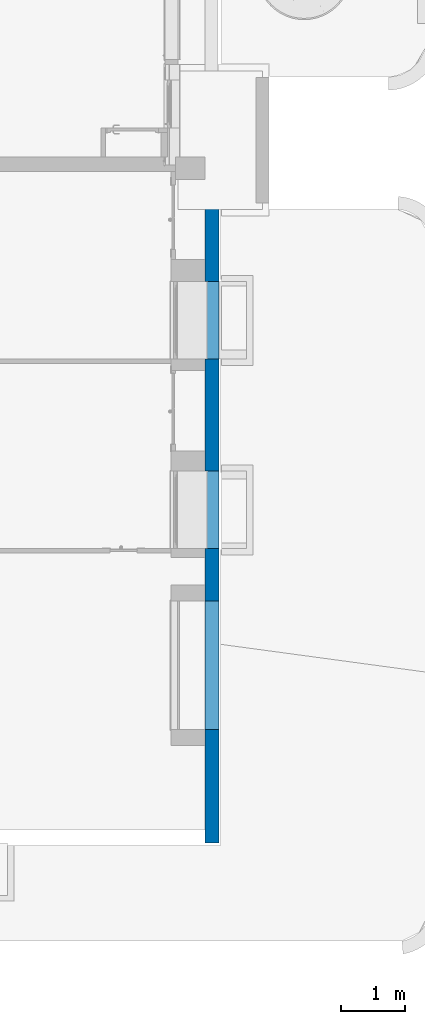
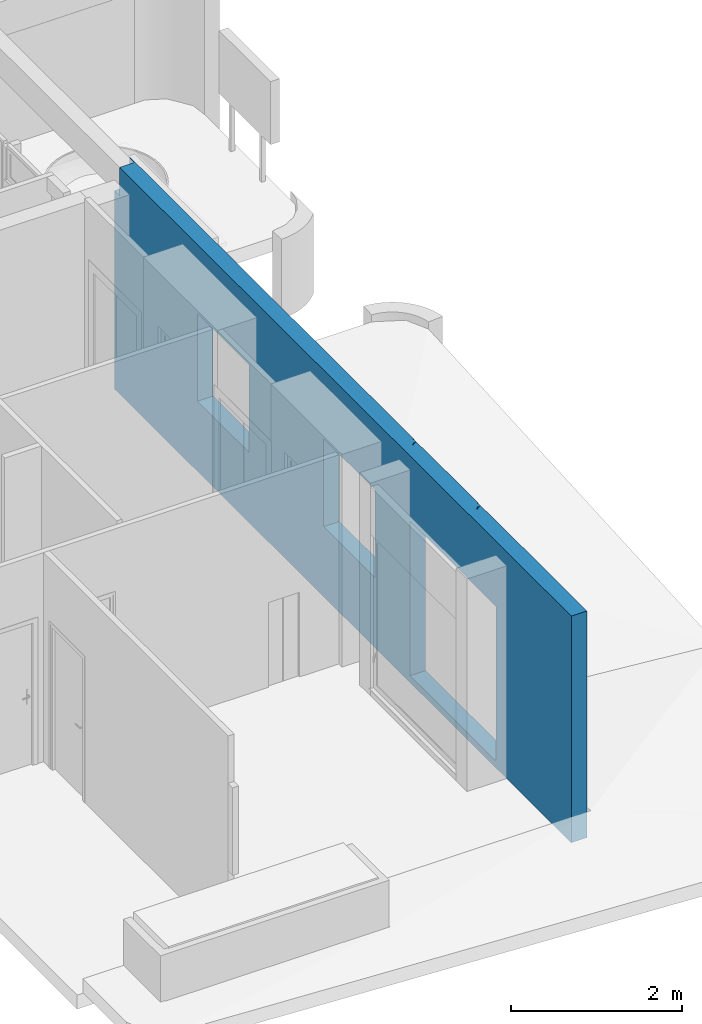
# One storey, part 3 of 10: 1 wall.
"""IFC2X3 building model written with IfcOpenShell, lengths in metres."""

from ifc_helpers import new_model, entity, si_unit, converted_unit, derived_unit, direction, frame, origin, place, context, subcontext, project, spatial, faceted_brep, material, layer, layer_set, type_object, element, save


model = new_model("IFC2X3")

# Units and contexts
model_context = context("Model", 3, precision=1e-05, world=origin(), true_north=direction((6.12303176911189e-17, 1.0)))
body_context = subcontext(model_context, "Body", "Model", "MODEL_VIEW")
ifc_project = project(units=[si_unit("LENGTHUNIT", "METRE"), si_unit("AREAUNIT", "SQUARE_METRE"), si_unit("VOLUMEUNIT", "CUBIC_METRE"), converted_unit("PLANEANGLEUNIT", "DEGREE", entity("IfcRatioMeasure", 0.0174532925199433), si_unit("PLANEANGLEUNIT", "RADIAN"), dimensions=[0, 0, 0, 0, 0, 0, 0]), si_unit("MASSUNIT", "GRAM", prefix="KILO"), derived_unit("MASSDENSITYUNIT", [(si_unit("MASSUNIT", "GRAM", prefix="KILO"), 1), (si_unit("LENGTHUNIT", "METRE"), -3)]), derived_unit("MOMENTOFINERTIAUNIT", [(si_unit("LENGTHUNIT", "METRE"), 4)]), si_unit("TIMEUNIT", "SECOND"), si_unit("FREQUENCYUNIT", "HERTZ"), si_unit("THERMODYNAMICTEMPERATUREUNIT", "DEGREE_CELSIUS"), derived_unit("THERMALTRANSMITTANCEUNIT", [(si_unit("MASSUNIT", "GRAM", prefix="KILO"), 1), (si_unit("THERMODYNAMICTEMPERATUREUNIT", "KELVIN"), -1), (si_unit("TIMEUNIT", "SECOND"), -3)]), derived_unit("VOLUMETRICFLOWRATEUNIT", [(si_unit("LENGTHUNIT", "METRE"), 3), (si_unit("TIMEUNIT", "SECOND"), -1)]), si_unit("ELECTRICCURRENTUNIT", "AMPERE"), si_unit("ELECTRICVOLTAGEUNIT", "VOLT"), si_unit("POWERUNIT", "WATT"), si_unit("FORCEUNIT", "NEWTON", prefix="KILO"), si_unit("ILLUMINANCEUNIT", "LUX"), si_unit("LUMINOUSFLUXUNIT", "LUMEN"), si_unit("LUMINOUSINTENSITYUNIT", "CANDELA"), derived_unit("USERDEFINED", [(si_unit("MASSUNIT", "GRAM", prefix="KILO"), -1), (si_unit("LENGTHUNIT", "METRE"), -2), (si_unit("TIMEUNIT", "SECOND"), 3), (si_unit("LUMINOUSFLUXUNIT", "LUMEN"), 1)]), derived_unit("LINEARVELOCITYUNIT", [(si_unit("LENGTHUNIT", "METRE"), 1), (si_unit("TIMEUNIT", "SECOND"), -1)]), si_unit("PRESSUREUNIT", "PASCAL"), derived_unit("USERDEFINED", [(si_unit("LENGTHUNIT", "METRE"), -2), (si_unit("MASSUNIT", "GRAM", prefix="KILO"), 1), (si_unit("TIMEUNIT", "SECOND"), -2)]), derived_unit("LINEARFORCEUNIT", [(si_unit("MASSUNIT", "GRAM", prefix="KILO"), 1), (si_unit("LENGTHUNIT", "METRE"), 1), (si_unit("TIMEUNIT", "SECOND"), -2), (si_unit("LENGTHUNIT", "METRE"), -1)]), derived_unit("PLANARFORCEUNIT", [(si_unit("MASSUNIT", "GRAM", prefix="KILO"), 1), (si_unit("LENGTHUNIT", "METRE"), 1), (si_unit("TIMEUNIT", "SECOND"), -2), (si_unit("LENGTHUNIT", "METRE"), -2)])], contexts=[model_context])

# Site, building, storey
site_placement = place(None, origin())
site = spatial("IfcSite", under=ifc_project, at=site_placement, Name="Default", CompositionType="ELEMENT")
building_placement = place(site_placement, origin())
building = spatial("IfcBuilding", under=site, at=building_placement, CompositionType="ELEMENT")
storey_placement = place(building_placement, frame((0.0, 0.0, 0.893308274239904)))
storey = spatial("IfcBuildingStorey", under=building, at=storey_placement, Name="Niveau 00 - 02", CompositionType="ELEMENT", Elevation=0.893308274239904)

# Wall
ifc_material = material(Name="Maçonnerie - Voile BA")
ifc_layer = layer(ifc_material, 0.21)
ifc_layer_set = layer_set([ifc_layer], Name="Mur de base:Ext. Voile BA 210")
wall_type = type_object("IfcWallType", Name="Mur de base:Ext. Voile BA 210", PredefinedType="STANDARD", material=ifc_layer_set)
wall_placement = place(storey_placement, frame((2.9524682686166, -21.006253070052, 0.0), z_axis=(0.0, 0.0, 1.0), x_axis=(0.0, 1.0, 0.0)))
element("IfcWall", 1, at=wall_placement, inside=storey, type_object=wall_type, material=ifc_material, Name="Mur de base:Ext. Voile BA 210", ObjectType="Mur de base:Ext. Voile BA 210", context=body_context, shape_type="Brep", body=[
    faceted_brep([(0.0, -0.105, 2.77977559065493), (0.0, -0.105, 0.0), (1.76077841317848, -0.105, 2.3), (0.0, -0.105, 3.22856448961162), (1.76077841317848, -0.105, 0.1), (3.76077841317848, -0.105, 0.1), (10.6596195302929, -0.105, 0.0), (7.52333718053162, -0.105, 1.0), (8.72333718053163, -0.105, 1.0), (10.6596195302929, -0.105, 2.77977559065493), (8.72333718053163, -0.105, 2.25), (10.6596195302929, -0.105, 3.22856448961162), (7.52333718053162, -0.105, 2.25), (4.03988013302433, -0.105, 3.22856448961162), (5.77740566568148, -0.105, 2.25), (5.77720179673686, -0.105, 2.25), (4.03988013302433, -0.105, 3.21999999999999), (4.57740566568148, -0.105, 2.25), (3.76077841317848, -0.105, 2.3), (3.83988013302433, -0.105, 3.21999999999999), (2.53988013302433, -0.105, 3.21999999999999), (3.83988013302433, -0.105, 3.22856448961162), (2.53988013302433, -0.105, 3.22856448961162), (2.33988013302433, -0.105, 3.21999999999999), (2.33988013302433, -0.105, 3.22856448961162), (4.57740566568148, -0.105, 1.0), (5.77720179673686, -0.105, 1.0), (5.77740566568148, -0.105, 1.0), (10.3096195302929, 0.105, 0.0), (10.5396195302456, 0.105, 2.825), (10.6596195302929, 0.105, 0.0), (8.72333718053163, 0.105, 1.0), (9.06961952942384, 0.105, 0.0), (7.34103106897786, 0.105, 0.0), (7.52333718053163, 0.105, 1.0), (6.09103106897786, 0.105, 0.0), (5.77740566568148, 0.105, 1.0), (4.43308796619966, 0.105, 0.0), (4.57740566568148, 0.105, 1.0), (4.01077841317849, 0.105, 0.0), (3.76077841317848, 0.105, 0.1), (3.76077841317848, 0.105, 0.0), (1.76077841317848, 0.105, 0.1), (1.76077841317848, 0.105, 0.0), (1.51077841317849, 0.105, 0.0), (1.76077841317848, 0.105, 2.3), (0.0, 0.105, 0.0), (0.200000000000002, 0.105, 3.22856448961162), (0.0, 0.105, 3.22856448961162), (3.76077841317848, 0.105, 2.3), (4.57740566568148, 0.105, 2.25), (5.77740566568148, 0.105, 2.25), (10.5396195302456, 0.105, 3.22856448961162), (8.72333718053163, 0.105, 2.25), (7.52333718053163, 0.105, 2.25), (10.6596195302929, 0.105, 2.825), (3.88488013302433, -0.0950000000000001, 3.21999999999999), (3.83988013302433, -0.0950000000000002, 3.21999999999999), (4.03988013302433, -0.095000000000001, 3.21999999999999), (3.99488013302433, -0.0950000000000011, 3.21999999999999), (3.98840965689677, -0.0941481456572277, 3.21999999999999), (3.98238013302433, -0.091650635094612, 3.21999999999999), (3.97720246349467, -0.0876776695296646, 3.21999999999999), (3.97322949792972, -0.0825000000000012, 3.21999999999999), (3.9707319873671, -0.076470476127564, 3.21999999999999), (3.96988013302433, -0.0700000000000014, 3.21999999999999), (3.96988013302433, -0.0497963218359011, 3.21999999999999), (3.95238013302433, -0.0497963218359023, 3.21999999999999), (3.95043899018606, -0.0495407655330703, 3.21999999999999), (3.94863013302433, -0.0487915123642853, 3.21999999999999), (3.94707683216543, -0.047599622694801, 3.21999999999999), (3.94588494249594, -0.046046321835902, 3.21999999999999), (3.94513568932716, -0.0442374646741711, 3.21999999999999), (3.94488013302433, -0.0422963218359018, 3.21999999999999), (3.94488013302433, -0.0316456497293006, 3.21999999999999), (3.93488013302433, -0.0316456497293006, 3.21999999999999), (3.93488013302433, -0.0422963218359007, 3.21999999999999), (3.9346245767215, -0.0442374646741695, 3.21999999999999), (3.93387532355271, -0.046046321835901, 3.21999999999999), (3.93268343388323, -0.0475996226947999, 3.21999999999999), (3.93113013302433, -0.0487915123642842, 3.21999999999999), (3.9293212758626, -0.0495407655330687, 3.21999999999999), (3.92738013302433, -0.0497963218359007, 3.21999999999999), (3.90988013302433, -0.0497963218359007, 3.21999999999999), (3.90988013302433, -0.0699999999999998, 3.21999999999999), (3.90902827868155, -0.076470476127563, 3.21999999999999), (3.90653076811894, -0.0825000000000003, 3.21999999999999), (3.90255780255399, -0.0876776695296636, 3.21999999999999), (3.89738013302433, -0.091650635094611, 3.21999999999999), (3.89135060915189, -0.0941481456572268, 3.21999999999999), (2.38488013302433, -0.0949999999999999, 3.21999999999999), (2.33988013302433, -0.0949999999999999, 3.21999999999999), (2.53988013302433, -0.0950000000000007, 3.21999999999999), (2.49488013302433, -0.0950000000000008, 3.21999999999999), (2.48840965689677, -0.0941481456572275, 3.21999999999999), (2.48238013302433, -0.0916506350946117, 3.21999999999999), (2.47720246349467, -0.0876776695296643, 3.21999999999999), (2.47322949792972, -0.0825000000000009, 3.21999999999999), (2.4707319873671, -0.0764704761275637, 3.21999999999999), (2.46988013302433, -0.0700000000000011, 3.21999999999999), (2.46988013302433, -0.0497963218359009, 3.21999999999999), (2.45238013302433, -0.049796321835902, 3.21999999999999), (2.45043899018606, -0.04954076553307, 3.21999999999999), (2.44863013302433, -0.048791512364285, 3.21999999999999), (2.44707683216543, -0.0475996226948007, 3.21999999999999), (2.44588494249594, -0.0460463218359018, 3.21999999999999), (2.44513568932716, -0.0442374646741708, 3.21999999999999), (2.44488013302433, -0.0422963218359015, 3.21999999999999), (2.44488013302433, -0.0316456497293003, 3.21999999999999), (2.43488013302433, -0.0316456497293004, 3.21999999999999), (2.43488013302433, -0.0422963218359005, 3.21999999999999), (2.4346245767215, -0.0442374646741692, 3.21999999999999), (2.43387532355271, -0.0460463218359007, 3.21999999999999), (2.43268343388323, -0.0475996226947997, 3.21999999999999), (2.43113013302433, -0.0487915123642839, 3.21999999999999), (2.4293212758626, -0.0495407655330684, 3.21999999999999), (2.42738013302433, -0.0497963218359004, 3.21999999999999), (2.40988013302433, -0.0497963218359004, 3.21999999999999), (2.40988013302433, -0.0699999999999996, 3.21999999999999), (2.40902827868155, -0.0764704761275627, 3.21999999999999), (2.40653076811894, -0.0825, 3.21999999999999), (2.40255780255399, -0.0876776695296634, 3.21999999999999), (2.39738013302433, -0.0916506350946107, 3.21999999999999), (2.39135060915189, -0.0941481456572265, 3.21999999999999), (3.93488013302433, -0.0422963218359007, 3.22856448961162), (3.9346245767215, -0.0442374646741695, 3.22856448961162), (3.93387532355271, -0.046046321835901, 3.22856448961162), (3.93268343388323, -0.0475996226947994, 3.22856448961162), (3.93113013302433, -0.0487915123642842, 3.22856448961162), (3.9293212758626, -0.0495407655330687, 3.22856448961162), (3.92738013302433, -0.0497963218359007, 3.22856448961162), (3.90988013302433, -0.0497963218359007, 3.22856448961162), (3.96988013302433, -0.0497963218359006, 3.22856448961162), (3.95238013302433, -0.0497963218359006, 3.22856448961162), (2.42738013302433, -0.0497963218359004, 3.22856448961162), (2.40988013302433, -0.0497963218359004, 3.22856448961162), (2.46988013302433, -0.0497963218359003, 3.22856448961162), (2.45238013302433, -0.0497963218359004, 3.22856448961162), (3.90988013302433, -0.0699999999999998, 3.22856448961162), (3.90902827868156, -0.0764704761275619, 3.22856448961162), (3.90653076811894, -0.0824999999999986, 3.22856448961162), (3.90255780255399, -0.0876776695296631, 3.22856448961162), (3.89738013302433, -0.091650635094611, 3.22856448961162), (3.89135060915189, -0.0941481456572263, 3.22856448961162), (3.88488013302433, -0.0949999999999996, 3.22856448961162), (3.83988013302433, -0.0950000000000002, 3.22856448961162), (4.03988013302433, -0.095000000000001, 3.22856448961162), (3.99488013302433, -0.0950000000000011, 3.22856448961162), (2.38488013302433, -0.0949999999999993, 3.22856448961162), (2.33988013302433, -0.0949999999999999, 3.22856448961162), (2.53988013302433, -0.0950000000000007, 3.22856448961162), (2.49488013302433, -0.0950000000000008, 3.22856448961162), (3.98840965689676, -0.0941481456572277, 3.22856448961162), (3.98238013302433, -0.0916506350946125, 3.22856448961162), (3.97720246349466, -0.0876776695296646, 3.22856448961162), (3.97322949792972, -0.0825000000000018, 3.22856448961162), (3.9707319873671, -0.076470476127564, 3.22856448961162), (3.96988013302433, -0.0700000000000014, 3.22856448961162), (3.95043899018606, -0.0495407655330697, 3.22856448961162), (3.94863013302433, -0.0487915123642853, 3.22856448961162), (3.94707683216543, -0.0475996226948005, 3.22856448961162), (3.94588494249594, -0.046046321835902, 3.22856448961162), (3.94513568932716, -0.0442374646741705, 3.22856448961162), (3.94488013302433, -0.0422963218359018, 3.22856448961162), (3.94488013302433, -0.0316456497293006, 3.22856448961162), (3.93488013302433, -0.0316456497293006, 3.22856448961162), (2.44488013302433, -0.0316456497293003, 3.22856448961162), (2.43488013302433, -0.0316456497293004, 3.22856448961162), (2.43488013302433, -0.0422963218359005, 3.22856448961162), (2.4346245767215, -0.0442374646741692, 3.22856448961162), (2.43387532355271, -0.0460463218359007, 3.22856448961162), (2.43268343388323, -0.0475996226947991, 3.22856448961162), (2.43113013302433, -0.0487915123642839, 3.22856448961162), (2.4293212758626, -0.0495407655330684, 3.22856448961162), (2.40988013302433, -0.0699999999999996, 3.22856448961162), (2.40902827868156, -0.0764704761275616, 3.22856448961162), (2.40653076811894, -0.0824999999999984, 3.22856448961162), (2.40255780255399, -0.0876776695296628, 3.22856448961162), (2.39738013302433, -0.0916506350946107, 3.22856448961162), (2.39135060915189, -0.094148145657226, 3.22856448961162), (2.48840965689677, -0.0941481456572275, 3.22856448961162), (2.48238013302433, -0.0916506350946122, 3.22856448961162), (2.47720246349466, -0.0876776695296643, 3.22856448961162), (2.47322949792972, -0.0825000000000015, 3.22856448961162), (2.4707319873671, -0.0764704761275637, 3.22856448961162), (2.46988013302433, -0.0700000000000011, 3.22856448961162), (2.45043899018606, -0.0495407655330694, 3.22856448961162), (2.44863013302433, -0.048791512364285, 3.22856448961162), (2.44707683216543, -0.0475996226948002, 3.22856448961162), (2.44588494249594, -0.0460463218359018, 3.22856448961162), (2.44513568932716, -0.0442374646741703, 3.22856448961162), (2.44488013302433, -0.0422963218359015, 3.22856448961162), (10.6596195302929, -0.0950000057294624, 2.825), (10.6596195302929, -0.0950000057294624, 3.22856448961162), (10.5396195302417, -0.0950000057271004, 2.825), (10.5396195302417, -0.0950000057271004, 3.22856448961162)], [[[0, 1, 2]], [[0, 2, 3]], [[2, 1, 4]], [[4, 1, 5]], [[1, 6, 5]], [[7, 5, 6]], [[6, 8, 7]], [[8, 6, 9]], [[10, 8, 9]], [[9, 11, 10]], [[12, 10, 11]], [[11, 13, 12]], [[14, 12, 13]], [[15, 14, 13]], [[16, 15, 13]], [[17, 15, 16]], [[16, 18, 17]], [[16, 19, 18]], [[19, 20, 18]], [[19, 21, 20]], [[21, 22, 20]], [[18, 20, 2]], [[23, 2, 20]], [[24, 2, 23]], [[2, 24, 3]], [[18, 5, 25]], [[17, 18, 25]], [[25, 5, 26]], [[14, 27, 7]], [[12, 14, 7]], [[27, 5, 7]], [[27, 26, 5]], [[28, 29, 30]], [[29, 28, 31]], [[31, 28, 32]], [[33, 31, 32]], [[34, 31, 33]], [[33, 35, 34]], [[35, 36, 34]], [[35, 37, 36]], [[37, 38, 36]], [[39, 38, 37]], [[38, 39, 40]], [[41, 40, 39]], [[42, 40, 41]], [[43, 42, 41]], [[42, 43, 44]], [[42, 44, 45]], [[44, 46, 45]], [[47, 45, 46]], [[48, 47, 46]], [[45, 47, 49]], [[50, 49, 47]], [[50, 47, 51]], [[52, 51, 47]], [[52, 29, 53]], [[53, 54, 52]], [[51, 52, 54]], [[51, 54, 34]], [[51, 34, 36]], [[38, 49, 50]], [[49, 38, 40]], [[29, 31, 53]], [[55, 30, 29]], [[56, 57, 19, 16, 58, 59, 60, 61, 62, 63, 64, 65, 66, 67, 68, 69, 70, 71, 72, 73, 74, 75, 76, 77, 78, 79, 80, 81, 82, 83, 84, 85, 86, 87, 88, 89]], [[90, 91, 23, 20, 92, 93, 94, 95, 96, 97, 98, 99, 100, 101, 102, 103, 104, 105, 106, 107, 108, 109, 110, 111, 112, 113, 114, 115, 116, 117, 118, 119, 120, 121, 122, 123]], [[76, 124, 125, 77]], [[77, 125, 126, 78]], [[78, 126, 127, 79]], [[80, 128, 129, 81]], [[81, 129, 130, 82]], [[79, 127, 128, 80]], [[82, 130, 131, 83]], [[67, 66, 132, 133]], [[117, 116, 134, 135]], [[101, 100, 136, 137]], [[83, 131, 138, 84]], [[84, 138, 139, 85]], [[85, 139, 140, 86]], [[86, 140, 141, 87]], [[88, 142, 143, 89]], [[89, 143, 144, 56]], [[87, 141, 142, 88]], [[56, 144, 145, 57]], [[58, 146, 147, 59]], [[90, 148, 149, 91]], [[92, 150, 151, 93]], [[19, 57, 145, 21]], [[16, 13, 146, 58]], [[59, 147, 152, 60]], [[60, 152, 153, 61]], [[61, 153, 154, 62]], [[63, 155, 156, 64]], [[64, 156, 157, 65]], [[62, 154, 155, 63]], [[65, 157, 132, 66]], [[67, 133, 158, 68]], [[68, 158, 159, 69]], [[69, 159, 160, 70]], [[71, 161, 162, 72]], [[72, 162, 163, 73]], [[70, 160, 161, 71]], [[74, 73, 163, 164]], [[75, 74, 164, 165]], [[109, 108, 166, 167]], [[75, 165, 124, 76]], [[110, 168, 169, 111]], [[111, 169, 170, 112]], [[112, 170, 171, 113]], [[114, 172, 173, 115]], [[115, 173, 134, 116]], [[113, 171, 172, 114]], [[117, 135, 174, 118]], [[118, 174, 175, 119]], [[119, 175, 176, 120]], [[120, 176, 177, 121]], [[122, 178, 179, 123]], [[123, 179, 148, 90]], [[121, 177, 178, 122]], [[23, 91, 149, 24]], [[20, 22, 150, 92]], [[93, 151, 180, 94]], [[94, 180, 181, 95]], [[95, 181, 182, 96]], [[97, 183, 184, 98]], [[98, 184, 185, 99]], [[96, 182, 183, 97]], [[100, 99, 185, 136]], [[101, 137, 186, 102]], [[102, 186, 187, 103]], [[103, 187, 188, 104]], [[105, 189, 190, 106]], [[106, 190, 191, 107]], [[104, 188, 189, 105]], [[108, 107, 191, 166]], [[109, 167, 168, 110]], [[9, 6, 30, 55, 192, 193, 11]], [[193, 192, 194, 195]], [[29, 194, 192, 55]], [[29, 52, 195, 194]], [[17, 25, 38, 50]], [[15, 17, 50, 51, 14]], [[10, 12, 54, 53]], [[27, 14, 51, 36]], [[26, 27, 36, 38, 25]], [[7, 8, 31, 34]], [[12, 7, 34, 54]], [[8, 10, 53, 31]], [[1, 46, 44, 43, 41, 39, 37, 35, 33, 32, 28, 30, 6]], [[11, 193, 195, 52, 47, 48, 3, 24, 149, 148, 179, 178, 177, 176, 175, 174, 135, 134, 173, 172, 171, 170, 169, 168, 167, 166, 191, 190, 189, 188, 187, 186, 137, 136, 185, 184, 183, 182, 181, 180, 151, 150, 22, 21, 145, 144, 143, 142, 141, 140, 139, 138, 131, 130, 129, 128, 127, 126, 125, 124, 165, 164, 163, 162, 161, 160, 159, 158, 133, 132, 157, 156, 155, 154, 153, 152, 147, 146, 13]], [[0, 3, 48, 46, 1]], [[49, 40, 5, 18]], [[45, 49, 18, 2]], [[45, 2, 4, 42]], [[42, 4, 5, 40]]]),
])

save(model, "model.ifc")
